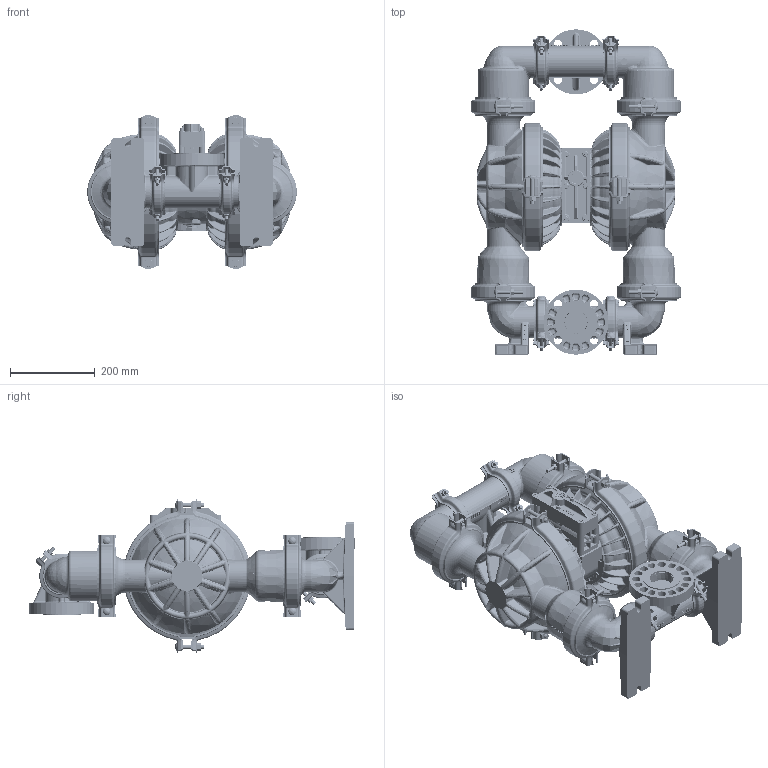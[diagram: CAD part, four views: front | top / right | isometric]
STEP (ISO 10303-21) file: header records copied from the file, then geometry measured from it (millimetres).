
FILE_DESCRIPTION (( 'STEP AP203' ), '1' );
FILE_NAME ('P8_CHAMP_PLASTIC_POLY_TOP.STEP', '2022-07-04T19:51:47', ( '' ), ( '' ), 'SwSTEP 2.0', 'SolidWorks 2019', '' );
FILE_SCHEMA (( 'CONFIG_CONTROL_DESIGN' ));
Length unit declared in the file: inch
Products named in the file (1): P8_CHAMP_PLASTIC_POLY_TOP
Bounding box: 495.34 x 769.24 x 363.22 mm (x, y, z)
Volume: 31890331.6 mm3; surface area: 1968283.7 mm2
Topology: 1 solids, 1 shells, 13863 faces, 35456 edges, 21892 vertices
Faces by surface type: plane 7269, cylinder 2015, bspline 1994, torus 1181, cone 871, sphere 533
Entity records: 706109 total; most frequent: CARTESIAN_POINT 389785, ORIENTED_EDGE 70544, DIRECTION 59269, EDGE_CURVE 35272, VERTEX_POINT 21836, LINE 20333, VECTOR 20333, AXIS2_PLACEMENT_3D 19468
